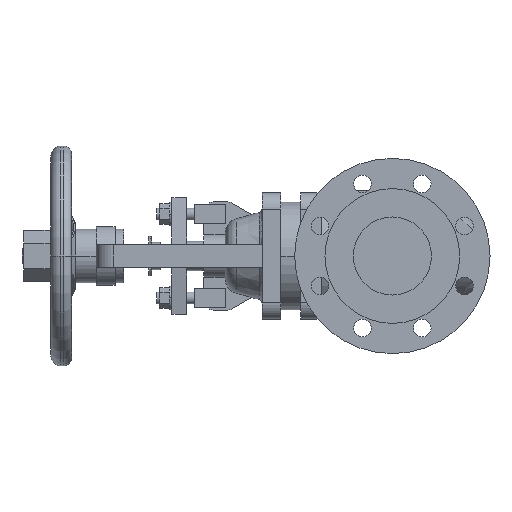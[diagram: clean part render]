
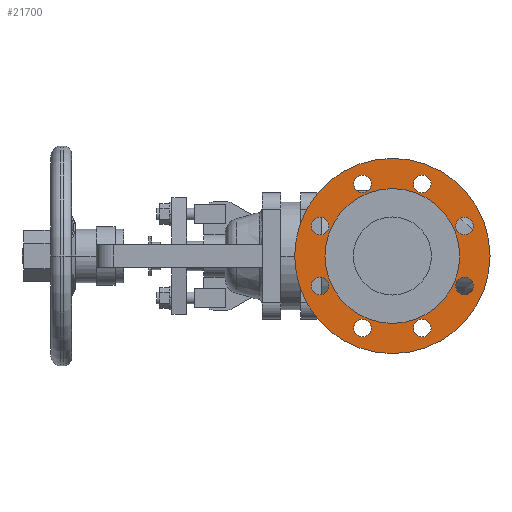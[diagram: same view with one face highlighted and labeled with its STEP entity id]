
A CAD part, left-side view. The second image highlights one B-rep face of the part: STEP entity #21700.
In plain terms, the highlighted planar face has unit normal (-1, 0, 0).
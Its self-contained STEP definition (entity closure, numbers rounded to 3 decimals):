
#10600=CARTESIAN_POINT('',(3.,0.,-100.));
#10610=VERTEX_POINT('',#10600);
#10640=CARTESIAN_POINT('',(3.,0.,0.));
#10650=DIRECTION('',(1.,0.,0.));
#10660=DIRECTION('',(0.,0.,-1.));
#10670=AXIS2_PLACEMENT_3D('',#10640,#10650,#10660);
#10680=CIRCLE('',#10670,100.);
#10690=CARTESIAN_POINT('',(3.,0.,100.));
#10700=VERTEX_POINT('',#10690);
#10710=EDGE_CURVE('',#10700,#10610,#10680,.T.);
#11090=CARTESIAN_POINT('',(3.,30.615,-64.91));
#11100=VERTEX_POINT('',#11090);
#11260=CARTESIAN_POINT('',(3.,30.615,-82.91));
#11270=VERTEX_POINT('',#11260);
#11300=CARTESIAN_POINT('',(3.,30.615,-73.91));
#11310=DIRECTION('',(-1.,0.,0.));
#11320=DIRECTION('',(0.,0.,-1.));
#11330=AXIS2_PLACEMENT_3D('',#11300,#11310,#11320);
#11340=CIRCLE('',#11330,9.);
#11350=EDGE_CURVE('',#11100,#11270,#11340,.T.);
#11580=CARTESIAN_POINT('',(3.,-30.615,-82.91));
#11590=VERTEX_POINT('',#11580);
#11620=CARTESIAN_POINT('',(3.,-30.615,-73.91));
#11630=DIRECTION('',(-1.,0.,0.));
#11640=DIRECTION('',(0.,0.,-1.));
#11650=AXIS2_PLACEMENT_3D('',#11620,#11630,#11640);
#11660=CIRCLE('',#11650,9.);
#11670=CARTESIAN_POINT('',(3.,-30.615,-64.91));
#11680=VERTEX_POINT('',#11670);
#11690=EDGE_CURVE('',#11680,#11590,#11660,.T.);
#12070=CARTESIAN_POINT('',(3.,73.91,-39.615));
#12080=VERTEX_POINT('',#12070);
#12240=CARTESIAN_POINT('',(3.,73.91,-21.615));
#12250=VERTEX_POINT('',#12240);
#12280=CARTESIAN_POINT('',(3.,73.91,-30.615));
#12290=DIRECTION('',(-1.,0.,0.));
#12300=DIRECTION('',(0.,0.,-1.));
#12310=AXIS2_PLACEMENT_3D('',#12280,#12290,#12300);
#12320=CIRCLE('',#12310,9.);
#12330=EDGE_CURVE('',#12080,#12250,#12320,.T.);
#12560=CARTESIAN_POINT('',(3.,-73.91,-21.615));
#12570=VERTEX_POINT('',#12560);
#12600=CARTESIAN_POINT('',(3.,-73.91,-30.615));
#12610=DIRECTION('',(-1.,0.,0.));
#12620=DIRECTION('',(0.,0.,-1.));
#12630=AXIS2_PLACEMENT_3D('',#12600,#12610,#12620);
#12640=CIRCLE('',#12630,9.);
#12650=CARTESIAN_POINT('',(3.,-73.91,-39.615));
#12660=VERTEX_POINT('',#12650);
#12670=EDGE_CURVE('',#12660,#12570,#12640,.T.);
#13050=CARTESIAN_POINT('',(3.,73.91,39.615));
#13060=VERTEX_POINT('',#13050);
#13090=CARTESIAN_POINT('',(3.,73.91,30.615));
#13100=DIRECTION('',(-1.,0.,0.));
#13110=DIRECTION('',(0.,0.,-1.));
#13120=AXIS2_PLACEMENT_3D('',#13090,#13100,#13110);
#13130=CIRCLE('',#13120,9.);
#13140=CARTESIAN_POINT('',(3.,73.91,21.615));
#13150=VERTEX_POINT('',#13140);
#13160=EDGE_CURVE('',#13150,#13060,#13130,.T.);
#13540=CARTESIAN_POINT('',(3.,-73.91,21.615));
#13550=VERTEX_POINT('',#13540);
#13710=CARTESIAN_POINT('',(3.,-73.91,39.615));
#13720=VERTEX_POINT('',#13710);
#13750=CARTESIAN_POINT('',(3.,-73.91,30.615));
#13760=DIRECTION('',(-1.,0.,0.));
#13770=DIRECTION('',(0.,0.,-1.));
#13780=AXIS2_PLACEMENT_3D('',#13750,#13760,#13770);
#13790=CIRCLE('',#13780,9.);
#13800=EDGE_CURVE('',#13550,#13720,#13790,.T.);
#14030=CARTESIAN_POINT('',(3.,30.615,82.91));
#14040=VERTEX_POINT('',#14030);
#14200=CARTESIAN_POINT('',(3.,30.615,64.91));
#14210=VERTEX_POINT('',#14200);
#14240=CARTESIAN_POINT('',(3.,30.615,73.91));
#14250=DIRECTION('',(-1.,0.,0.));
#14260=DIRECTION('',(0.,0.,-1.));
#14270=AXIS2_PLACEMENT_3D('',#14240,#14250,#14260);
#14280=CIRCLE('',#14270,9.);
#14290=EDGE_CURVE('',#14040,#14210,#14280,.T.);
#14520=CARTESIAN_POINT('',(3.,-30.615,82.91));
#14530=VERTEX_POINT('',#14520);
#14690=CARTESIAN_POINT('',(3.,-30.615,64.91));
#14700=VERTEX_POINT('',#14690);
#14730=CARTESIAN_POINT('',(3.,-30.615,73.91));
#14740=DIRECTION('',(-1.,0.,0.));
#14750=DIRECTION('',(0.,0.,-1.));
#14760=AXIS2_PLACEMENT_3D('',#14730,#14740,#14750);
#14770=CIRCLE('',#14760,9.);
#14780=EDGE_CURVE('',#14530,#14700,#14770,.T.);
#15010=CARTESIAN_POINT('',(3.,-69.,0.));
#15020=VERTEX_POINT('',#15010);
#15050=CARTESIAN_POINT('',(3.,0.,0.));
#15060=DIRECTION('',(-1.,0.,0.));
#15070=DIRECTION('',(0.,1.,0.));
#15080=AXIS2_PLACEMENT_3D('',#15050,#15060,#15070);
#15090=CIRCLE('',#15080,69.);
#15100=CARTESIAN_POINT('',(3.,69.,0.));
#15110=VERTEX_POINT('',#15100);
#15120=EDGE_CURVE('',#15110,#15020,#15090,.T.);
#21150=CARTESIAN_POINT('',(3.,84.5,0.));
#21160=DIRECTION('',(1.,0.,0.));
#21170=DIRECTION('',(0.,-1.,0.));
#21180=AXIS2_PLACEMENT_3D('',#21150,#21160,#21170);
#21190=PLANE('',#21180);
#21200=ORIENTED_EDGE('',*,*,#15120,.F.);
#21210=EDGE_CURVE('',#15020,#15110,#15090,.T.);
#21220=ORIENTED_EDGE('',*,*,#21210,.F.);
#21230=EDGE_LOOP('',(#21220,#21200));
#21240=FACE_BOUND('',#21230,.T.);
#21250=EDGE_CURVE('',#10610,#10700,#10680,.T.);
#21260=ORIENTED_EDGE('',*,*,#21250,.F.);
#21270=ORIENTED_EDGE('',*,*,#10710,.F.);
#21280=EDGE_LOOP('',(#21270,#21260));
#21290=FACE_OUTER_BOUND('',#21280,.T.);
#21300=EDGE_CURVE('',#11270,#11100,#11340,.T.);
#21310=ORIENTED_EDGE('',*,*,#21300,.F.);
#21320=ORIENTED_EDGE('',*,*,#11350,.F.);
#21330=EDGE_LOOP('',(#21320,#21310));
#21340=FACE_BOUND('',#21330,.T.);
#21350=ORIENTED_EDGE('',*,*,#11690,.F.);
#21360=EDGE_CURVE('',#11590,#11680,#11660,.T.);
#21370=ORIENTED_EDGE('',*,*,#21360,.F.);
#21380=EDGE_LOOP('',(#21370,#21350));
#21390=FACE_BOUND('',#21380,.T.);
#21400=EDGE_CURVE('',#12250,#12080,#12320,.T.);
#21410=ORIENTED_EDGE('',*,*,#21400,.F.);
#21420=ORIENTED_EDGE('',*,*,#12330,.F.);
#21430=EDGE_LOOP('',(#21420,#21410));
#21440=FACE_BOUND('',#21430,.T.);
#21450=EDGE_CURVE('',#12570,#12660,#12640,.T.);
#21460=ORIENTED_EDGE('',*,*,#21450,.F.);
#21470=ORIENTED_EDGE('',*,*,#12670,.F.);
#21480=EDGE_LOOP('',(#21470,#21460));
#21490=FACE_BOUND('',#21480,.T.);
#21500=EDGE_CURVE('',#13060,#13150,#13130,.T.);
#21510=ORIENTED_EDGE('',*,*,#21500,.F.);
#21520=ORIENTED_EDGE('',*,*,#13160,.F.);
#21530=EDGE_LOOP('',(#21520,#21510));
#21540=FACE_BOUND('',#21530,.T.);
#21550=EDGE_CURVE('',#13720,#13550,#13790,.T.);
#21560=ORIENTED_EDGE('',*,*,#21550,.F.);
#21570=ORIENTED_EDGE('',*,*,#13800,.F.);
#21580=EDGE_LOOP('',(#21570,#21560));
#21590=FACE_BOUND('',#21580,.T.);
#21600=EDGE_CURVE('',#14210,#14040,#14280,.T.);
#21610=ORIENTED_EDGE('',*,*,#21600,.F.);
#21620=ORIENTED_EDGE('',*,*,#14290,.F.);
#21630=EDGE_LOOP('',(#21620,#21610));
#21640=FACE_BOUND('',#21630,.T.);
#21650=EDGE_CURVE('',#14700,#14530,#14770,.T.);
#21660=ORIENTED_EDGE('',*,*,#21650,.F.);
#21670=ORIENTED_EDGE('',*,*,#14780,.F.);
#21680=EDGE_LOOP('',(#21670,#21660));
#21690=FACE_BOUND('',#21680,.T.);
#21700=ADVANCED_FACE('',(#21240,#21290,#21340,#21390,#21440,#21490,
#21540,#21590,#21640,#21690),#21190,.F.);
